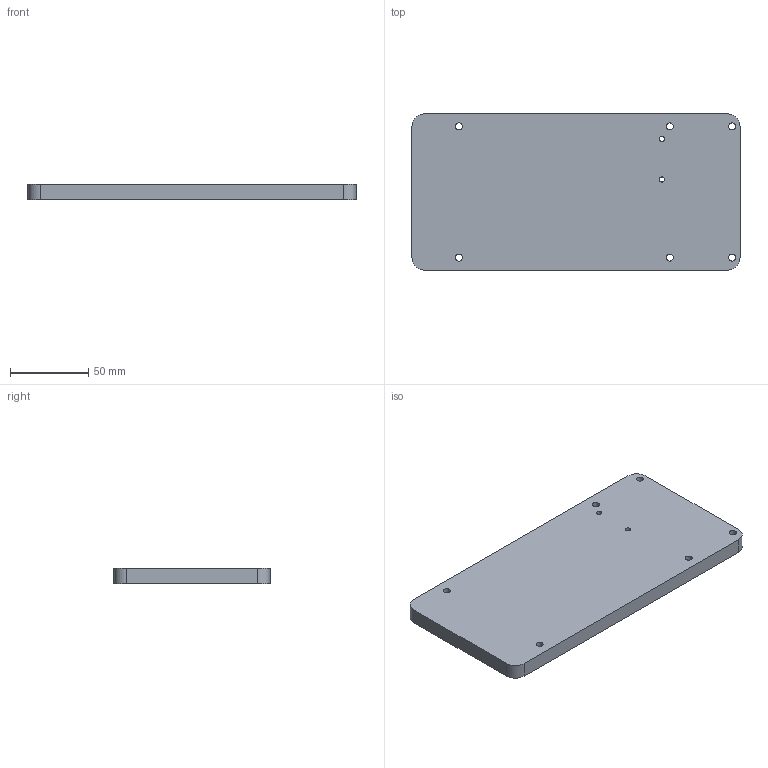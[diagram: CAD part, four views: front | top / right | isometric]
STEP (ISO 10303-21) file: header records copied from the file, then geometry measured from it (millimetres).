
FILE_DESCRIPTION(('Open CASCADE Model'),'2;1');
FILE_NAME('Open CASCADE Shape Model','2026-07-29T21:54:38',('Author'),( 'Open CASCADE'),'Open CASCADE STEP processor 7.9','Open CASCADE 7.9' ,'Unknown');
FILE_SCHEMA(('AUTOMOTIVE_DESIGN { 1 0 10303 214 1 1 1 1 }'));
Length unit declared in the file: millimetre
Products named in the file (2): =>[0:1:1:2]; split_v2_petg_actuator_spine
Assembly tree (1 placements, depth 2):
  =>[0:1:1:2]
    split_v2_petg_actuator_spine
Bounding box: 210 x 100 x 10 mm (x, y, z)
Volume: 208314.8 mm3; surface area: 48787.5 mm2
Topology: 1 solids, 1 shells, 18 faces, 48 edges, 32 vertices
Faces by surface type: cylinder 12, plane 6
Full cylindrical faces by diameter (mm): 3.4 x2, 4.5 x6
Entity records: 1297 total; most frequent: CARTESIAN_POINT 220, DIRECTION 204, ORIENTED_EDGE 96, LINE 96, VECTOR 96, PCURVE 96, DEFINITIONAL_REPRESENTATION 96, EDGE_CURVE 48
